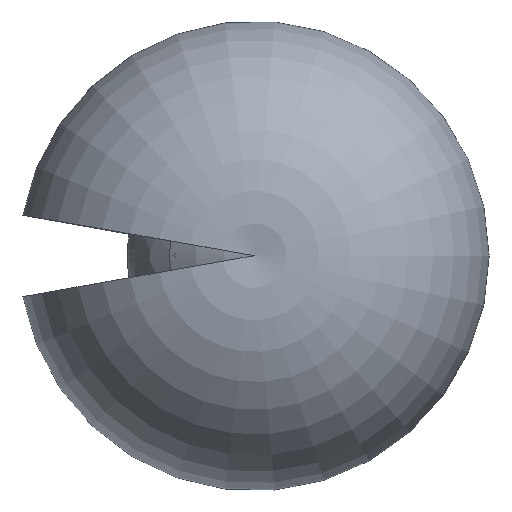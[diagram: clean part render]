
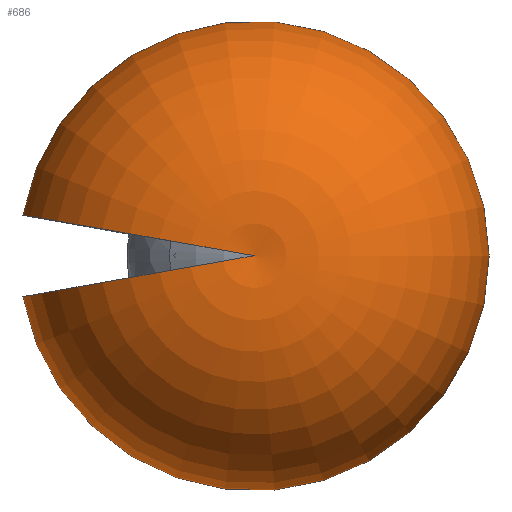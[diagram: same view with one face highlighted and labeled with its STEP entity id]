
A CAD part, top view. The second image highlights one B-rep face of the part: STEP entity #686.
In plain terms, the highlighted toroidal (fillet/blend) face has major radius 690 mm and minor radius 3312.04 mm.
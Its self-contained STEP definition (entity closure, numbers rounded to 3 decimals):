
#17 = VERTEX_POINT ( 'NONE', #711 ) ;
#24 = ORIENTED_EDGE ( 'NONE', *, *, #129, .T. ) ;
#50 = DIRECTION ( 'NONE',  ( -1., 0., 0. ) ) ;
#56 = CIRCLE ( 'NONE', #221, 1822.783 ) ;
#113 = DIRECTION ( 'NONE',  ( -1., 0., 0. ) ) ;
#129 = EDGE_CURVE ( 'NONE', #462, #369, #526, .T. ) ;
#158 = EDGE_CURVE ( 'NONE', #17, #369, #590, .T. ) ;
#168 = CARTESIAN_POINT ( 'NONE',  ( 0., 0., -2582.296 ) ) ;
#172 = AXIS2_PLACEMENT_3D ( 'NONE', #387, #568, #451 ) ;
#174 = TOROIDAL_SURFACE ( 'NONE', #672, 690., 3312.036 ) ;
#175 = CARTESIAN_POINT ( 'NONE',  ( -679.517, -119.817, 530. ) ) ;
#221 = AXIS2_PLACEMENT_3D ( 'NONE', #168, #554, #113 ) ;
#279 = CARTESIAN_POINT ( 'NONE',  ( 0., 0., 530. ) ) ;
#286 = FACE_OUTER_BOUND ( 'NONE', #525, .T. ) ;
#291 = EDGE_CURVE ( 'NONE', #462, #17, #56, .T. ) ;
#359 = AXIS2_PLACEMENT_3D ( 'NONE', #175, #396, #510 ) ;
#369 = VERTEX_POINT ( 'NONE', #722 ) ;
#387 = CARTESIAN_POINT ( 'NONE',  ( -679.517, 119.817, 530. ) ) ;
#396 = DIRECTION ( 'NONE',  ( -0.174, 0.985, 0. ) ) ;
#451 = DIRECTION ( 'NONE',  ( 0., 0., 1. ) ) ;
#462 = VERTEX_POINT ( 'NONE', #656 ) ;
#510 = DIRECTION ( 'NONE',  ( 0., 0., 1. ) ) ;
#520 = ORIENTED_EDGE ( 'NONE', *, *, #158, .F. ) ;
#524 = ORIENTED_EDGE ( 'NONE', *, *, #291, .F. ) ;
#525 = EDGE_LOOP ( 'NONE', ( #524, #24, #520 ) ) ;
#526 = CIRCLE ( 'NONE', #172, 3312.036 ) ;
#554 = DIRECTION ( 'NONE',  ( 0., 0., -1. ) ) ;
#568 = DIRECTION ( 'NONE',  ( 0.174, 0.985, 0. ) ) ;
#590 = CIRCLE ( 'NONE', #359, 3312.036 ) ;
#624 = DIRECTION ( 'NONE',  ( 0., 0., -1. ) ) ;
#656 = CARTESIAN_POINT ( 'NONE',  ( -1795.091, 316.523, -2582.296 ) ) ;
#672 = AXIS2_PLACEMENT_3D ( 'NONE', #279, #624, #50 ) ;
#686 = ADVANCED_FACE ( 'NONE', ( #286 ), #174, .T. ) ;
#711 = CARTESIAN_POINT ( 'NONE',  ( -1795.091, -316.523, -2582.296 ) ) ;
#722 = CARTESIAN_POINT ( 'NONE',  ( 0., 0., 3769.365 ) ) ;
